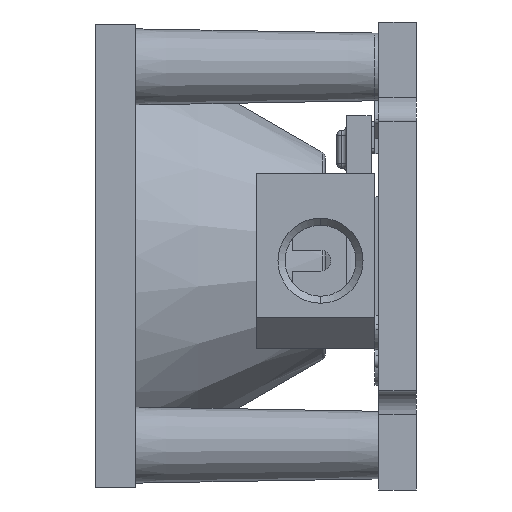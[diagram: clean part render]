
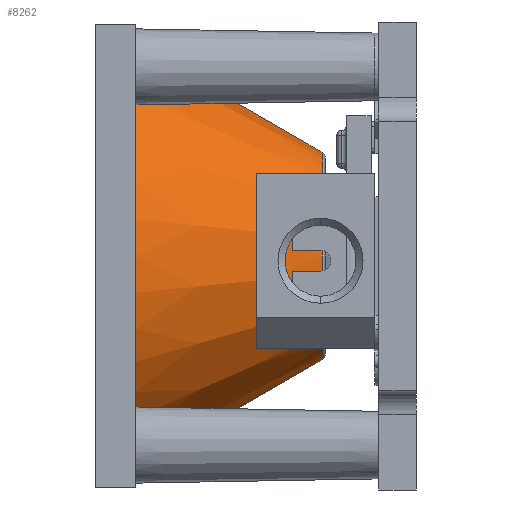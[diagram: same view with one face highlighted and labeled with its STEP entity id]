
A CAD part, left-side view. The second image highlights one B-rep face of the part: STEP entity #8262.
In plain terms, the highlighted conical face has half-angle 30 degrees and reference radius 4.526 mm.
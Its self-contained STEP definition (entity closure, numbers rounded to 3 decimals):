
#460 = LINE ( 'NONE', #27226, #19234 ) ;
#2191 = CARTESIAN_POINT ( 'NONE',  ( -0.111, 5.94, -4.354 ) ) ;
#2589 = DIRECTION ( 'NONE',  ( 0., 0., 1. ) ) ;
#3743 = DIRECTION ( 'NONE',  ( 0., 0., -1. ) ) ;
#4150 = DIRECTION ( 'NONE',  ( 0., 1., 0. ) ) ;
#4807 = CARTESIAN_POINT ( 'NONE',  ( -0.111, 5.94, 0.117 ) ) ;
#5348 = VERTEX_POINT ( 'NONE', #14777 ) ;
#5561 = EDGE_LOOP ( 'NONE', ( #7806, #20131, #19179, #16409 ) ) ;
#5823 = VERTEX_POINT ( 'NONE', #2191 ) ;
#6225 = CARTESIAN_POINT ( 'NONE',  ( -0.111, 5.94, 4.588 ) ) ;
#6487 = DIRECTION ( 'NONE',  ( 0., 1., 0. ) ) ;
#7646 = CARTESIAN_POINT ( 'NONE',  ( -0.111, 1.985, 2.304 ) ) ;
#7768 = AXIS2_PLACEMENT_3D ( 'NONE', #21851, #4150, #3743 ) ;
#7806 = ORIENTED_EDGE ( 'NONE', *, *, #17913, .F. ) ;
#8262 = ADVANCED_FACE ( 'NONE', ( #28734 ), #17545, .T. ) ;
#8886 = DIRECTION ( 'NONE',  ( 0., 0., 1. ) ) ;
#8990 = CARTESIAN_POINT ( 'NONE',  ( -0.111, 6.036, 0.117 ) ) ;
#9194 = DIRECTION ( 'NONE',  ( 0., 1., 0. ) ) ;
#12404 = VERTEX_POINT ( 'NONE', #6225 ) ;
#14777 = CARTESIAN_POINT ( 'NONE',  ( -0.111, 1.985, -2.071 ) ) ;
#15984 = DIRECTION ( 'NONE',  ( 0., 0.866, 0.5 ) ) ;
#16128 = DIRECTION ( 'NONE',  ( 0., 0.866, -0.5 ) ) ;
#16409 = ORIENTED_EDGE ( 'NONE', *, *, #25819, .F. ) ;
#17143 = AXIS2_PLACEMENT_3D ( 'NONE', #4807, #9194, #8886 ) ;
#17545 = CONICAL_SURFACE ( 'NONE', #22735, 4.526, 0.524 ) ;
#17737 = LINE ( 'NONE', #26639, #21486 ) ;
#17913 = EDGE_CURVE ( 'NONE', #5348, #5823, #460, .T. ) ;
#19179 = ORIENTED_EDGE ( 'NONE', *, *, #19564, .T. ) ;
#19234 = VECTOR ( 'NONE', #16128, 1000. ) ;
#19564 = EDGE_CURVE ( 'NONE', #23564, #12404, #17737, .T. ) ;
#20131 = ORIENTED_EDGE ( 'NONE', *, *, #24284, .T. ) ;
#21486 = VECTOR ( 'NONE', #15984, 1000. ) ;
#21851 = CARTESIAN_POINT ( 'NONE',  ( -0.111, 1.985, 0.117 ) ) ;
#22735 = AXIS2_PLACEMENT_3D ( 'NONE', #8990, #6487, #2589 ) ;
#23564 = VERTEX_POINT ( 'NONE', #7646 ) ;
#24284 = EDGE_CURVE ( 'NONE', #5348, #23564, #26901, .T. ) ;
#25551 = CIRCLE ( 'NONE', #17143, 4.471 ) ;
#25819 = EDGE_CURVE ( 'NONE', #5823, #12404, #25551, .T. ) ;
#26639 = CARTESIAN_POINT ( 'NONE',  ( -0.111, 6.036, 4.643 ) ) ;
#26901 = CIRCLE ( 'NONE', #7768, 2.188 ) ;
#27226 = CARTESIAN_POINT ( 'NONE',  ( -0.111, 6.036, -4.409 ) ) ;
#28734 = FACE_OUTER_BOUND ( 'NONE', #5561, .T. ) ;
